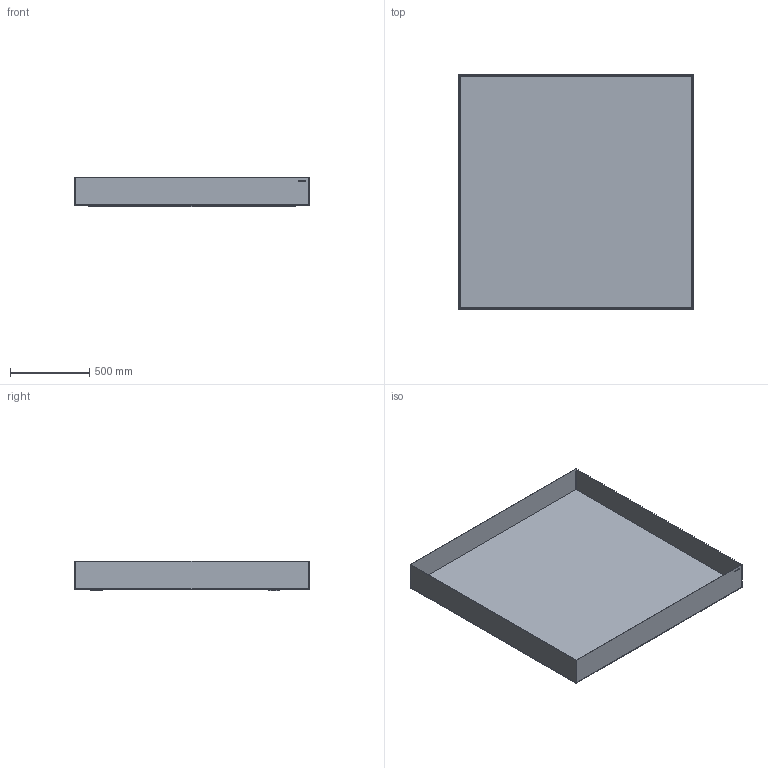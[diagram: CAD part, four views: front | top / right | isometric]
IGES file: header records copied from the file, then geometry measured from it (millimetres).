
Start section: SolidWorks IGES file using analytic representation for surfaces
Global section: file name: C:\VaultDeCastelli\Progetti\DC\PESO LEGGERO PRODOTTI\Ale\DeCastelli-3D-Frame 148.igs; native system: SolidWorks 2022; preprocessor: SolidWorks 2022; author: AlessandroP; date: 240726.104122; units: millimetre
Bounding box: 1480 x 1480 x 186 mm (x, y, z)
Surface area: 7049100 mm2 (no closed solid volume)
Topology: 0 solids, 0 shells, 152 faces, 3410 edges, 3410 vertices
Faces by surface type: bspline 110, revolution 42
